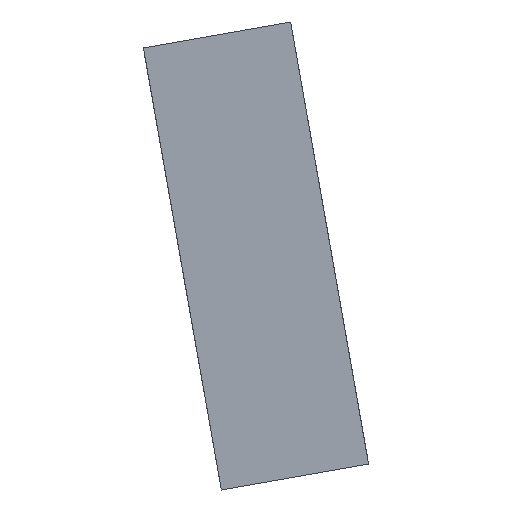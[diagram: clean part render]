
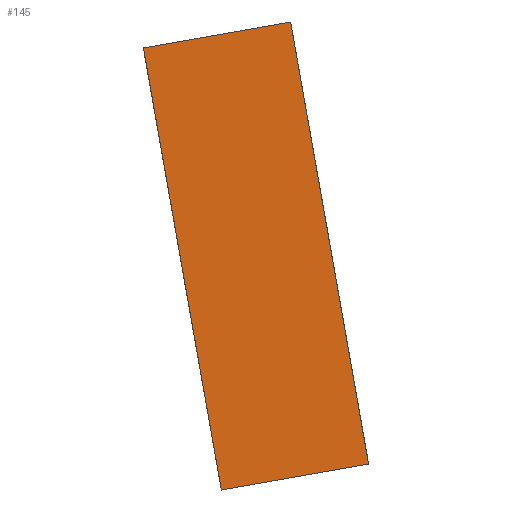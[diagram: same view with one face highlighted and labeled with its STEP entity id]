
A CAD part, left-side view. The second image highlights one B-rep face of the part: STEP entity #145.
In plain terms, the highlighted planar face has unit normal (-1, 0, 0).
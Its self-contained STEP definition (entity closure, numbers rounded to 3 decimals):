
#27=CARTESIAN_POINT('',(-617.,14.672,207.904));
#28=VERTEX_POINT('',#27);
#45=CARTESIAN_POINT('',(-617.,4.824,209.641));
#46=VERTEX_POINT('',#45);
#53=CARTESIAN_POINT('',(-617.,14.672,207.904));
#54=DIRECTION('',(0.0,-0.985,0.174));
#55=VECTOR('',#54,1.);
#56=LINE('',#53,#55);
#57=EDGE_CURVE('',#28,#46,#56,.T.);
#98=CARTESIAN_POINT('',(-617.,19.882,237.449));
#99=VERTEX_POINT('',#98);
#106=CARTESIAN_POINT('',(-617.,10.034,239.185));
#107=VERTEX_POINT('',#106);
#108=CARTESIAN_POINT('',(-617.,19.882,237.449));
#109=DIRECTION('',(0.0,-0.985,0.174));
#110=VECTOR('',#109,1.);
#111=LINE('',#108,#110);
#112=EDGE_CURVE('',#99,#107,#111,.T.);
#124=CARTESIAN_POINT('',(-617.,19.882,237.449));
#125=DIRECTION('',(-1.0,0.0,0.0));
#126=DIRECTION('',(0.0,-0.174,-0.985));
#127=AXIS2_PLACEMENT_3D('',#124,#125,#126);
#128=PLANE('',#127);
#129=CARTESIAN_POINT('',(-617.,19.882,237.449));
#130=DIRECTION('',(0.,-0.174,-0.985));
#131=VECTOR('',#130,1.);
#132=LINE('',#129,#131);
#133=EDGE_CURVE('',#99,#28,#132,.T.);
#134=ORIENTED_EDGE('',*,*,#133,.T.);
#135=ORIENTED_EDGE('',*,*,#57,.T.);
#136=CARTESIAN_POINT('',(-617.,10.034,239.185));
#137=DIRECTION('',(0.,-0.174,-0.985));
#138=VECTOR('',#137,1.);
#139=LINE('',#136,#138);
#140=EDGE_CURVE('',#107,#46,#139,.T.);
#141=ORIENTED_EDGE('',*,*,#140,.F.);
#142=ORIENTED_EDGE('',*,*,#112,.F.);
#143=EDGE_LOOP('',(#134,#135,#141,#142));
#144=FACE_BOUND('',#143,.T.);
#145=ADVANCED_FACE('',(#144),#128,.T.);
